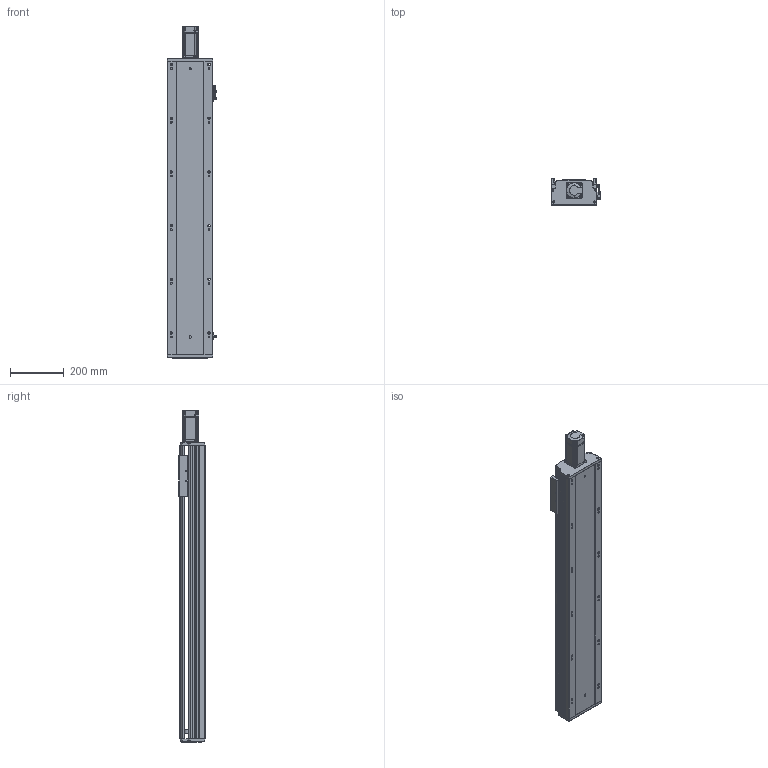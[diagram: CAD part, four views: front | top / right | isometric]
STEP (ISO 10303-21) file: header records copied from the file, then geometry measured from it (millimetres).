
FILE_DESCRIPTION (( 'STEP AP203' ), '1' );
FILE_NAME ('RY170Q-L2020-400-MK.SLDASM_0850.step', '2021-05-31T02:02:54', ( '盈信电脑' ), ( '东莞市道滘镇水果街19号' ), 'SwSTEP 2.0', 'SolidWorks 2016', '' );
FILE_SCHEMA (( 'CONFIG_CONTROL_DESIGN' ));
Length unit declared in the file: millimetre
Products named in the file (12): RY170綴裔啣; RY170Q臏賑輸20佪裝蹟譫(FK15); RY170Q-400倰第菁釱-MK_0850; 滅袉蝶18-15; RY170外置感应片(200共用）; RY170Q-400倰第裔啣-MK_0850; 滅袉蝶18-10; 侂狟400W侜督萇儂; 覜茼ん672; 15; RY170Q-L2020-400-MK.SLDASM_0850; RY170ヶ醱裔啣
Assembly tree (14 placements, depth 3):
  RY170Q-L2020-400-MK.SLDASM_0850
    RY170Q-400倰第菁釱-MK_0850
    RY170Q-400倰第裔啣-MK_0850
    RY170Q臏賑輸20佪裝蹟譫(FK15)
    侂狟400W侜督萇儂
      15
    RY170綴裔啣
    覜茼ん672  x3
    RY170外置感应片(200共用）
    RY170ヶ醱裔啣
    滅袉蝶18-15  x2
    滅袉蝶18-10
Bounding box: 183.7 x 97 x 1236.5 mm (x, y, z)
Volume: 5587481.5 mm3; surface area: 1821920.5 mm2
Topology: 13 solids, 13 shells, 2184 faces, 6211 edges, 4005 vertices
Faces by surface type: plane 1185, cylinder 789, cone 181, bspline 29
Entity records: 68462 total; most frequent: CARTESIAN_POINT 14973, ORIENTED_EDGE 11162, DIRECTION 10612, EDGE_CURVE 5581, VERTEX_POINT 3673, LINE 3616, VECTOR 3616, AXIS2_PLACEMENT_3D 3498
